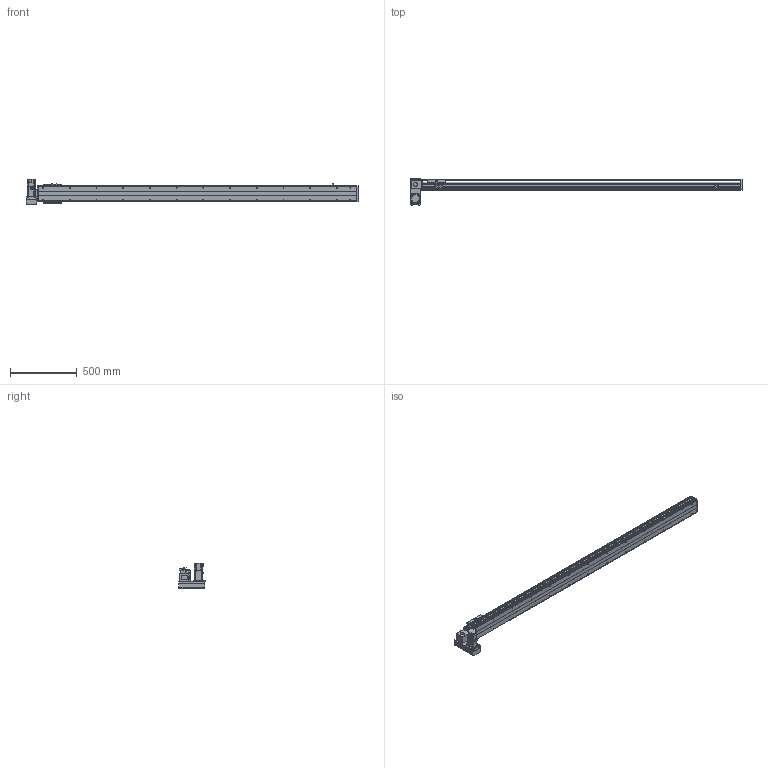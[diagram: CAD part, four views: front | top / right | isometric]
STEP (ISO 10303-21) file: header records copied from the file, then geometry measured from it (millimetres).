
FILE_DESCRIPTION( ( 'STEP AP214' ), '1' );
FILE_NAME( 'x:/temp/worker_6/temp/exporttempdir_3468_9_DLIOC/format_0/PBS120-P40-S2100-LD-T40-C1-N(0).stp', '2022-06-08T08:13:20', ( 'License CC BY-ND 4.0' ), ( 'CADENAS' ), ' ', 'PARTsolutions', ' ' );
FILE_SCHEMA( ( 'AUTOMOTIVE_DESIGN { 1 0 10303 214 1 1 1 1 }' ) );
Length unit declared in the file: millimetre
Products named in the file (7): PBS120-P40-S2100-LD-T40-C1-N(0); _PBS120-S2100()_body; _PBS120T-LD_motors; _T40-p1; _PBS120_sliser; _PBS120_plant; _PBS120_sensor
Assembly tree (8 placements, depth 2):
  PBS120-P40-S2100-LD-T40-C1-N(0)
    _PBS120-S2100()_body
    _PBS120T-LD_motors
    _T40-p1
    _PBS120_sliser
    _PBS120_plant
    _PBS120_sensor  x3
Bounding box: 2486 x 196 x 189.7 mm (x, y, z)
Volume: 9541637.2 mm3; surface area: 1953800.4 mm2
Topology: 8 solids, 8 shells, 858 faces, 2206 edges, 1417 vertices
Faces by surface type: plane 559, cylinder 239, cone 58, torus 2
Full cylindrical faces by diameter (mm): 2.459 x6, 3.242 x4, 4 x2, 4.134 x4, 4.5 x10, 4.917 x30, 5.5 x11, 6 x2, 6.6 x1, 7 x2, 8.5 x4, 9 x4, 12 x1, 14 x1, 30 x2, 40 x1, 50 x2
Entity records: 28164 total; most frequent: DIRECTION 3860, CARTESIAN_POINT 3767, ORIENTED_EDGE 3562, EDGE_CURVE 1781, AXIS2_PLACEMENT_3D 1316, LINE 1228, VECTOR 1228, VERTEX_POINT 1223
